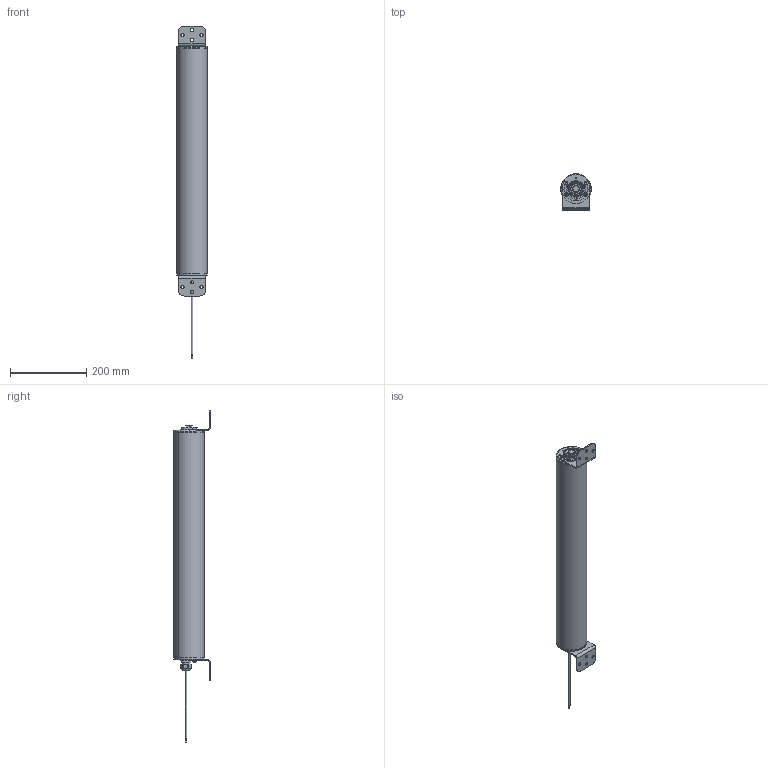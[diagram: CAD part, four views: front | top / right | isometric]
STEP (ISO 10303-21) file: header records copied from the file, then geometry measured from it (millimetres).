
FILE_DESCRIPTION (( 'STEP AP203' ), '1' );
FILE_NAME ('LB9x501.STEP', '2024-08-28T10:10:35', ( '' ), ( '' ), 'SwSTEP 2.0', 'SolidWorks 2021', '' );
FILE_SCHEMA (( 'CONFIG_CONTROL_DESIGN' ));
Length unit declared in the file: millimetre
Products named in the file (7): 000039_M5x10_1; 006266-C; Cable M12 femelle_1; IP69K adjust model_500; 000715_1; LB9x501; IP69K enclosure adjust_500
Assembly tree (10 placements, depth 2):
  LB9x501
    IP69K adjust model_500
    IP69K enclosure adjust_500
    000039_M5x10_1  x4
    000715_1
    Cable M12 femelle_1
    006266-C  x2
Bounding box: 80 x 95 x 868.8 mm (x, y, z)
Volume: 1699168.2 mm3; surface area: 492635.4 mm2
Topology: 12 solids, 12 shells, 1217 faces, 3218 edges, 2092 vertices
Faces by surface type: plane 665, cylinder 366, bspline 92, cone 64, torus 26, sphere 4
Entity records: 40216 total; most frequent: CARTESIAN_POINT 11799, ORIENTED_EDGE 5892, DIRECTION 5600, EDGE_CURVE 2946, VERTEX_POINT 1927, AXIS2_PLACEMENT_3D 1903, LINE 1794, VECTOR 1794
